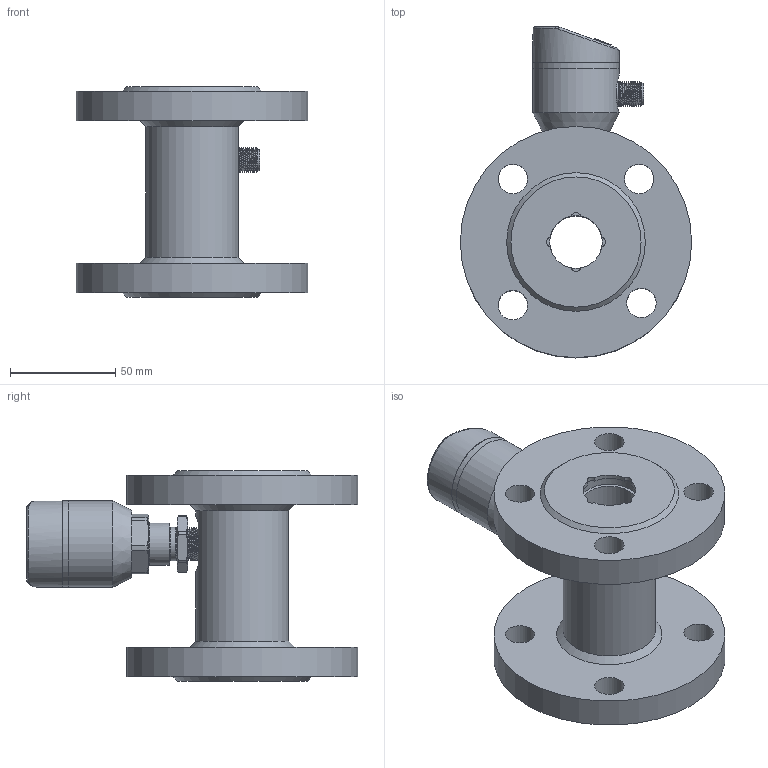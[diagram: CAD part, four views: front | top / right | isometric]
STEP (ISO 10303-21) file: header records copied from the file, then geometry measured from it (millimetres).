
FILE_DESCRIPTION( (''), '2;1');
FILE_NAME( 'QTKA_DN25_flange.step', '2024-01-11T13:41:27+08:00', (''), (''), '', '', '');
FILE_SCHEMA (('AUTOMOTIVE_DESIGN { 1 0 10303 214 3 1 1 1 }'));
Length unit declared in the file: millimetre
Products named in the file (1): QTKA DN25_flange
Bounding box: 110 x 157.8 x 100 mm (x, y, z)
Volume: 349935 mm3; surface area: 89319.5 mm2
Topology: 5 solids, 7 shells, 470 faces, 1140 edges, 723 vertices
Faces by surface type: cylinder 165, plane 163, cone 54, bspline 43, torus 39, sphere 6
Full cylindrical faces by diameter (mm): 1 x5, 2.7 x4, 8.4 x1, 9.7 x1, 9.8 x1, 10.1 x1, 11.6 x1, 12 x1, 14 x8, 15.9 x1, 16.5 x1, 20 x1, 23 x3, 25 x1, 26 x4, 26.1 x1, 28 x2, 37 x1, 41 x3, 44 x1, 110 x2
Entity records: 30771 total; most frequent: CARTESIAN_POINT 18864, DIRECTION 2137, ORIENTED_EDGE 2074, EDGE_CURVE 1037, AXIS2_PLACEMENT_3D 870, VERTEX_POINT 688, EDGE_LOOP 599, ADVANCED_FACE 468
